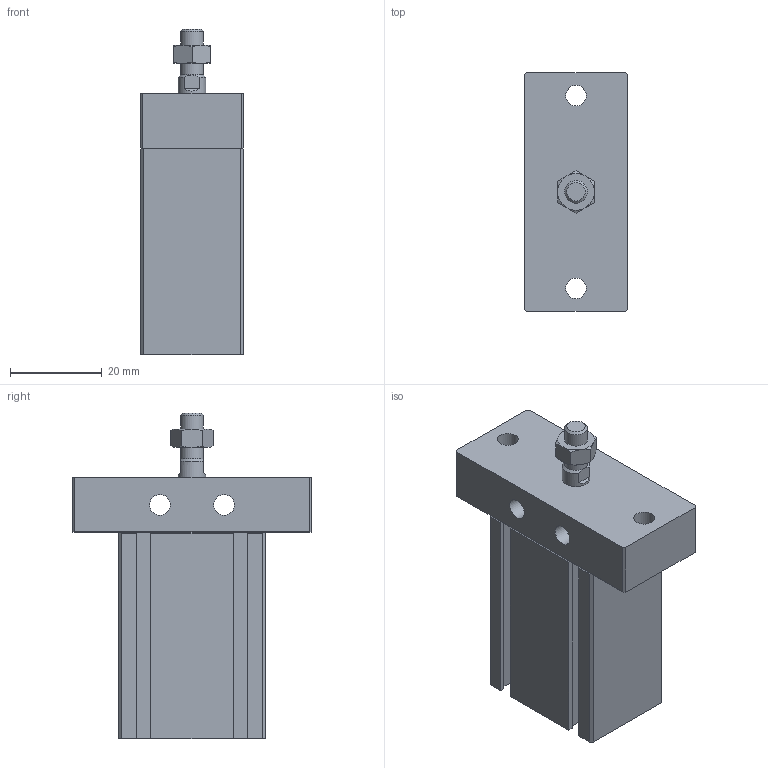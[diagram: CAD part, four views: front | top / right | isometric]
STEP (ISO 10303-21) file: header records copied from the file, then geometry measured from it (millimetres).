
FILE_DESCRIPTION((''),'2;1');
FILE_NAME('J:\3D電子目錄\氣缸\ND\ND\ND16-FB\ND16x20-FB.stp','2008-03-12T17:04:46',('66-2f-008'),(''),'Autodesk Inventor 11','Autodesk Inventor 11','');
FILE_SCHEMA(('AUTOMOTIVE_DESIGN { 1 0 10303 214 1 1 1 1 }'));
Length unit declared in the file: millimetre
Products named in the file (1): ND16-FB
Bounding box: 22.4 x 52 x 71 mm (x, y, z)
Volume: 40288.5 mm3; surface area: 13275.1 mm2
Topology: 2 solids, 2 shells, 130 faces, 310 edges, 195 vertices
Faces by surface type: plane 83, cone 22, bspline 14, cylinder 10, torus 1
Full cylindrical faces by diameter (mm): 1.5 x2, 4.5 x2, 5 x2, 6 x1, 10 x1, 18 x1, 19 x1
Entity records: 3636 total; most frequent: CARTESIAN_POINT 833, ORIENTED_EDGE 550, DIRECTION 542, EDGE_CURVE 275, VERTEX_POINT 189, VECTOR 186, LINE 186, AXIS2_PLACEMENT_3D 178
